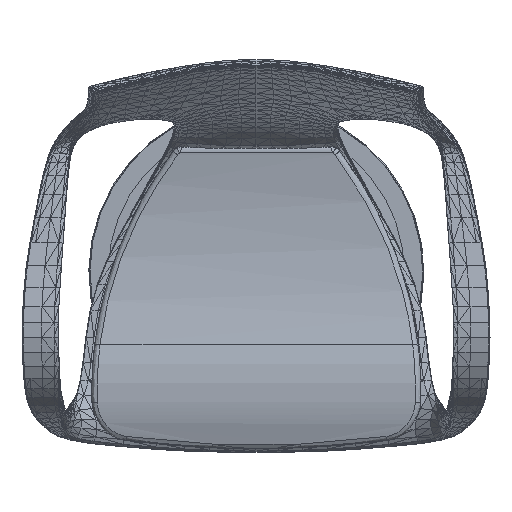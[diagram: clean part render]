
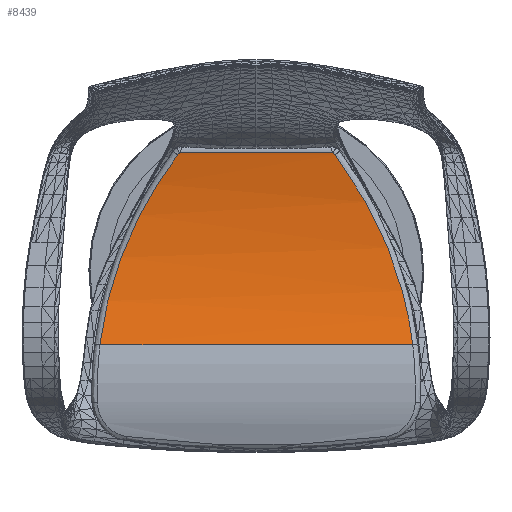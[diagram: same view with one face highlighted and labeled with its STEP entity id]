
A CAD part, top view. The second image highlights one B-rep face of the part: STEP entity #8439.
In plain terms, the highlighted cylindrical face has radius 534.361 mm (diameter 1068.72 mm), a partial arc.
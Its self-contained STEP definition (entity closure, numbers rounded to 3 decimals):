
#6169=CARTESIAN_POINT('',(1760.631,-255.087,819.902));
#6170=VERTEX_POINT('',#6169);
#6178=CARTESIAN_POINT('',(1763.296,-257.7,819.447));
#6179=VERTEX_POINT('',#6178);
#6180=CARTESIAN_POINT('',(1760.631,-255.087,819.902));
#6181=CARTESIAN_POINT('',(1761.643,-255.827,819.771));
#6182=CARTESIAN_POINT('',(1762.542,-256.711,819.616));
#6183=CARTESIAN_POINT('',(1763.296,-257.7,819.447));
#6184=B_SPLINE_CURVE_WITH_KNOTS('',3,(#6180,#6181,#6182,#6183),.UNSPECIFIED.,.F.,.U.,(4,4),(-8.659,-8.28),.UNSPECIFIED.);
#6185=EDGE_CURVE('',#6170,#6179,#6184,.T.);
#6482=CARTESIAN_POINT('',(1564.262,-255.087,819.902));
#6483=VERTEX_POINT('',#6482);
#6493=CARTESIAN_POINT('',(1564.262,-255.087,819.902));
#6494=DIRECTION('',(1.0,0.0,0.0));
#6495=VECTOR('',#6494,196.369);
#6496=LINE('',#6493,#6495);
#6497=EDGE_CURVE('',#6483,#6170,#6496,.T.);
#6624=CARTESIAN_POINT('',(1461.665,-501.34,834.204));
#6625=VERTEX_POINT('',#6624);
#6633=CARTESIAN_POINT('',(1561.597,-257.7,819.447));
#6634=VERTEX_POINT('',#6633);
#6635=CARTESIAN_POINT('',(1461.665,-501.34,834.204));
#6636=CARTESIAN_POINT('',(1464.572,-477.006,826.918));
#6637=CARTESIAN_POINT('',(1474.319,-427.704,815.975));
#6638=CARTESIAN_POINT('',(1500.773,-355.409,810.262));
#6639=CARTESIAN_POINT('',(1531.801,-299.077,813.245));
#6640=CARTESIAN_POINT('',(1553.881,-267.816,817.711));
#6641=CARTESIAN_POINT('',(1561.597,-257.7,819.447));
#6642=B_SPLINE_CURVE_WITH_KNOTS('',3,(#6635,#6636,#6637,#6638,#6639,#6640,#6641),.UNSPECIFIED.,.F.,.U.,(4,1,1,1,4),(-27.192,-19.423,-11.654,-3.885,0.0),.UNSPECIFIED.);
#6643=EDGE_CURVE('',#6625,#6634,#6642,.T.);
#7096=CARTESIAN_POINT('',(1863.228,-501.34,834.204));
#7097=VERTEX_POINT('',#7096);
#7169=CARTESIAN_POINT('',(1763.296,-257.7,819.447));
#7170=CARTESIAN_POINT('',(1778.729,-277.932,815.975));
#7171=CARTESIAN_POINT('',(1806.757,-320.869,811.016));
#7172=CARTESIAN_POINT('',(1838.782,-391.14,811.843));
#7173=CARTESIAN_POINT('',(1855.957,-452.433,820.975));
#7174=CARTESIAN_POINT('',(1861.775,-489.173,830.561));
#7175=CARTESIAN_POINT('',(1863.228,-501.34,834.204));
#7176=B_SPLINE_CURVE_WITH_KNOTS('',3,(#7169,#7170,#7171,#7172,#7173,#7174,#7175),.UNSPECIFIED.,.F.,.U.,(4,1,1,1,4),(-27.192,-19.423,-11.654,-3.885,0.0),.UNSPECIFIED.);
#7177=EDGE_CURVE('',#6179,#7097,#7176,.T.);
#8026=CARTESIAN_POINT('',(1561.597,-257.7,819.447));
#8027=CARTESIAN_POINT('',(1562.352,-256.711,819.616));
#8028=CARTESIAN_POINT('',(1563.251,-255.827,819.771));
#8029=CARTESIAN_POINT('',(1564.262,-255.087,819.902));
#8030=B_SPLINE_CURVE_WITH_KNOTS('',3,(#8026,#8027,#8028,#8029),.UNSPECIFIED.,.F.,.U.,(4,4),(-0.38,0.),.UNSPECIFIED.);
#8031=EDGE_CURVE('',#6634,#6483,#8030,.T.);
#8421=CARTESIAN_POINT('',(1662.447,-348.068,1346.112));
#8422=DIRECTION('',(1.0,0.,0.));
#8423=DIRECTION('',(0.,0.287,0.958));
#8424=AXIS2_PLACEMENT_3D('',#8421,#8422,#8423);
#8425=CYLINDRICAL_SURFACE('',#8424,534.361);
#8426=ORIENTED_EDGE('',*,*,#6185,.F.);
#8427=ORIENTED_EDGE('',*,*,#6497,.F.);
#8428=ORIENTED_EDGE('',*,*,#8031,.F.);
#8429=ORIENTED_EDGE('',*,*,#6643,.F.);
#8430=CARTESIAN_POINT('',(1863.228,-501.34,834.204));
#8431=DIRECTION('',(-1.0,0.0,0.0));
#8432=VECTOR('',#8431,401.563);
#8433=LINE('',#8430,#8432);
#8434=EDGE_CURVE('',#7097,#6625,#8433,.T.);
#8435=ORIENTED_EDGE('',*,*,#8434,.F.);
#8436=ORIENTED_EDGE('',*,*,#7177,.F.);
#8437=EDGE_LOOP('',(#8426,#8427,#8428,#8429,#8435,#8436));
#8438=FACE_OUTER_BOUND('',#8437,.T.);
#8439=ADVANCED_FACE('',(#8438),#8425,.F.);
